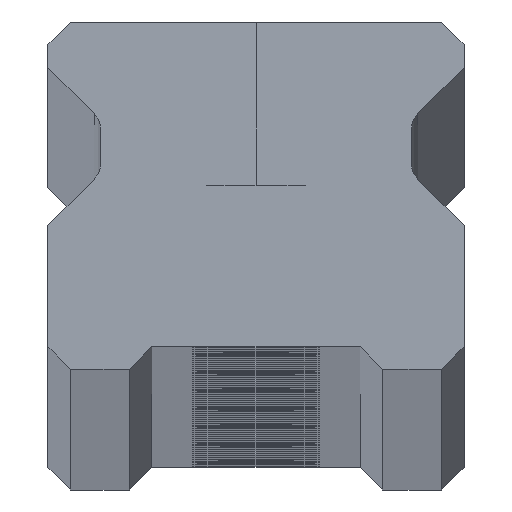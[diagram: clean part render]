
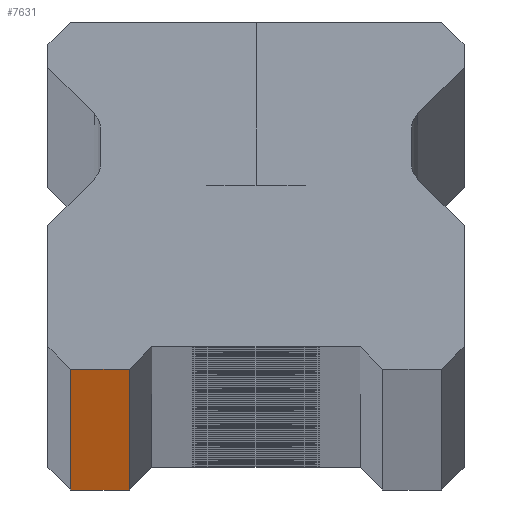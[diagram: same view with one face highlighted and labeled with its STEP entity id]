
A CAD part, top view. The second image highlights one B-rep face of the part: STEP entity #7631.
In plain terms, the highlighted planar face has unit normal (0, -1, 0).
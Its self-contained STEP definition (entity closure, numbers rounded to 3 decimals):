
#129 = EDGE_LOOP ( 'NONE', ( #9901, #8610, #2658, #7380 ) ) ;
#280 = AXIS2_PLACEMENT_3D ( 'NONE', #7864, #4554, #2168 ) ;
#820 = CARTESIAN_POINT ( 'NONE',  ( -7., 0., -1910. ) ) ;
#964 = VECTOR ( 'NONE', #8161, 1000. ) ;
#1557 = EDGE_CURVE ( 'NONE', #10202, #3508, #3507, .T. ) ;
#1653 = DIRECTION ( 'NONE',  ( 0., 0., 1. ) ) ;
#1738 = LINE ( 'NONE', #7395, #964 ) ;
#2147 = LINE ( 'NONE', #3261, #8496 ) ;
#2168 = DIRECTION ( 'NONE',  ( -1., 0., 0. ) ) ;
#2658 = ORIENTED_EDGE ( 'NONE', *, *, #10105, .F. ) ;
#3261 = CARTESIAN_POINT ( 'NONE',  ( 11.5, 0., -1910. ) ) ;
#3300 = CARTESIAN_POINT ( 'NONE',  ( -7., 0., -1910. ) ) ;
#3507 = LINE ( 'NONE', #820, #9479 ) ;
#3508 = VERTEX_POINT ( 'NONE', #8014 ) ;
#4366 = VERTEX_POINT ( 'NONE', #6129 ) ;
#4554 = DIRECTION ( 'NONE',  ( 0., 1., 0. ) ) ;
#5137 = FACE_OUTER_BOUND ( 'NONE', #129, .T. ) ;
#5703 = DIRECTION ( 'NONE',  ( 1., 0., 0. ) ) ;
#5763 = VECTOR ( 'NONE', #8900, 1000. ) ;
#6129 = CARTESIAN_POINT ( 'NONE',  ( -10.25, 0., 1910. ) ) ;
#7234 = VERTEX_POINT ( 'NONE', #9028 ) ;
#7380 = ORIENTED_EDGE ( 'NONE', *, *, #9087, .T. ) ;
#7395 = CARTESIAN_POINT ( 'NONE',  ( -10.25, 0., 1910. ) ) ;
#7631 = ADVANCED_FACE ( 'NONE', ( #5137 ), #10285, .F. ) ;
#7864 = CARTESIAN_POINT ( 'NONE',  ( 11.5, 0., 1910. ) ) ;
#8014 = CARTESIAN_POINT ( 'NONE',  ( -7., 0., 1910. ) ) ;
#8161 = DIRECTION ( 'NONE',  ( 0., 0., -1. ) ) ;
#8496 = VECTOR ( 'NONE', #5703, 1000. ) ;
#8610 = ORIENTED_EDGE ( 'NONE', *, *, #1557, .T. ) ;
#8638 = EDGE_CURVE ( 'NONE', #7234, #10202, #2147, .T. ) ;
#8754 = LINE ( 'NONE', #9467, #5763 ) ;
#8900 = DIRECTION ( 'NONE',  ( 1., 0., 0. ) ) ;
#9028 = CARTESIAN_POINT ( 'NONE',  ( -10.25, 0., -1910. ) ) ;
#9087 = EDGE_CURVE ( 'NONE', #4366, #7234, #1738, .T. ) ;
#9467 = CARTESIAN_POINT ( 'NONE',  ( 11.5, 0., 1910. ) ) ;
#9479 = VECTOR ( 'NONE', #1653, 1000. ) ;
#9901 = ORIENTED_EDGE ( 'NONE', *, *, #8638, .T. ) ;
#10105 = EDGE_CURVE ( 'NONE', #4366, #3508, #8754, .T. ) ;
#10202 = VERTEX_POINT ( 'NONE', #3300 ) ;
#10285 = PLANE ( 'NONE',  #280 ) ;
